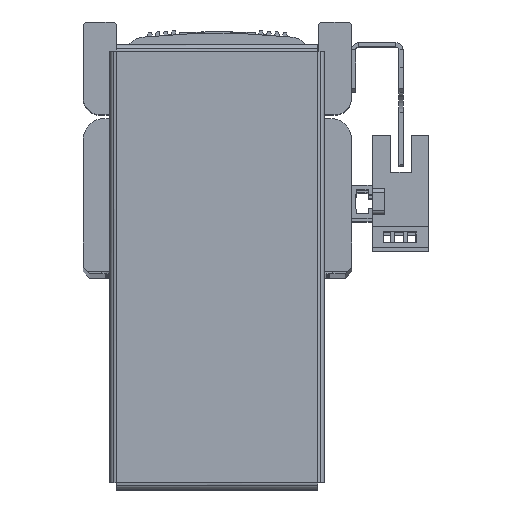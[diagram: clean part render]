
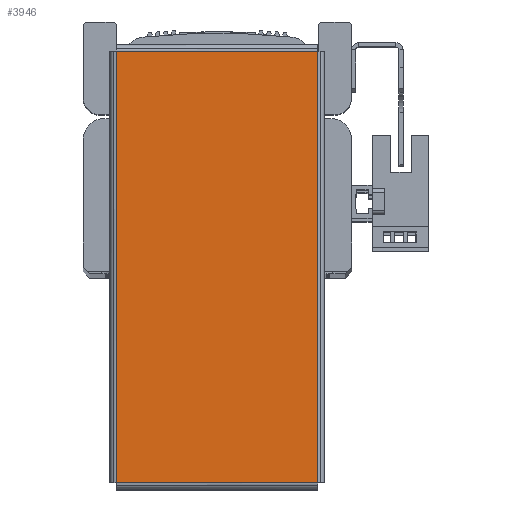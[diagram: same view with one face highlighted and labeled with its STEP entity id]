
A CAD part, top view. The second image highlights one B-rep face of the part: STEP entity #3946.
In plain terms, the highlighted planar face has unit normal (0, 0, 1) as drawn and (0, 0, -1) by its records, which use the part's own axes.
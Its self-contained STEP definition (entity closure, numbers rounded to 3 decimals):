
#1009 = EDGE_LOOP ( 'NONE', ( #42861, #42869, #42963, #42901 ) ) ;
#2608 = EDGE_CURVE ( 'NONE', #29996, #30172, #12236, .T. ) ;
#2634 = EDGE_CURVE ( 'NONE', #28751, #29996, #12231, .T. ) ;
#2639 = EDGE_CURVE ( 'NONE', #28105, #28751, #12237, .T. ) ;
#2695 = EDGE_CURVE ( 'NONE', #30172, #28105, #12282, .T. ) ;
#3287 = AXIS2_PLACEMENT_3D ( 'NONE', #13555, #13556, #13558 ) ;
#3946 = ADVANCED_FACE ( 'NONE', ( #12345 ), #13542, .F. ) ;
#10240 = DIRECTION ( 'NONE',  ( -1., 0., 0. ) ) ;
#10253 = CARTESIAN_POINT ( 'NONE',  ( 52.293, -24.363, -1. ) ) ;
#12180 = VECTOR ( 'NONE', #26733, 1000. ) ;
#12184 = VECTOR ( 'NONE', #43444, 1000. ) ;
#12195 = VECTOR ( 'NONE', #43409, 1000. ) ;
#12231 = LINE ( 'NONE', #43406, #12195 ) ;
#12236 = LINE ( 'NONE', #26732, #12180 ) ;
#12237 = LINE ( 'NONE', #23787, #12184 ) ;
#12251 = VECTOR ( 'NONE', #10240, 1000. ) ;
#12282 = LINE ( 'NONE', #10253, #12251 ) ;
#12345 = FACE_OUTER_BOUND ( 'NONE', #1009, .T. ) ;
#13542 = PLANE ( 'NONE',  #3287 ) ;
#13555 = CARTESIAN_POINT ( 'NONE',  ( 0., 0., -1. ) ) ;
#13556 = DIRECTION ( 'NONE',  ( 0., 0., 1. ) ) ;
#13558 = DIRECTION ( 'NONE',  ( 1., 0., 0. ) ) ;
#20453 = CARTESIAN_POINT ( 'NONE',  ( -52.263, -24.363, -1. ) ) ;
#20711 = CARTESIAN_POINT ( 'NONE',  ( 52.263, 24.363, -1. ) ) ;
#20712 = CARTESIAN_POINT ( 'NONE',  ( -52.263, 24.363, -1. ) ) ;
#20904 = CARTESIAN_POINT ( 'NONE',  ( 52.263, -24.363, -1. ) ) ;
#23787 = CARTESIAN_POINT ( 'NONE',  ( -52.263, -24.393, -1. ) ) ;
#26732 = CARTESIAN_POINT ( 'NONE',  ( 52.263, 24.393, -1. ) ) ;
#26733 = DIRECTION ( 'NONE',  ( 0., -1., 0. ) ) ;
#28105 = VERTEX_POINT ( 'NONE', #20453 ) ;
#28751 = VERTEX_POINT ( 'NONE', #20712 ) ;
#29996 = VERTEX_POINT ( 'NONE', #20711 ) ;
#30172 = VERTEX_POINT ( 'NONE', #20904 ) ;
#42861 = ORIENTED_EDGE ( 'NONE', *, *, #2608, .T. ) ;
#42869 = ORIENTED_EDGE ( 'NONE', *, *, #2695, .T. ) ;
#42901 = ORIENTED_EDGE ( 'NONE', *, *, #2634, .T. ) ;
#42963 = ORIENTED_EDGE ( 'NONE', *, *, #2639, .T. ) ;
#43406 = CARTESIAN_POINT ( 'NONE',  ( -52.293, 24.363, -1. ) ) ;
#43409 = DIRECTION ( 'NONE',  ( 1., 0., 0. ) ) ;
#43444 = DIRECTION ( 'NONE',  ( 0., 1., 0. ) ) ;
